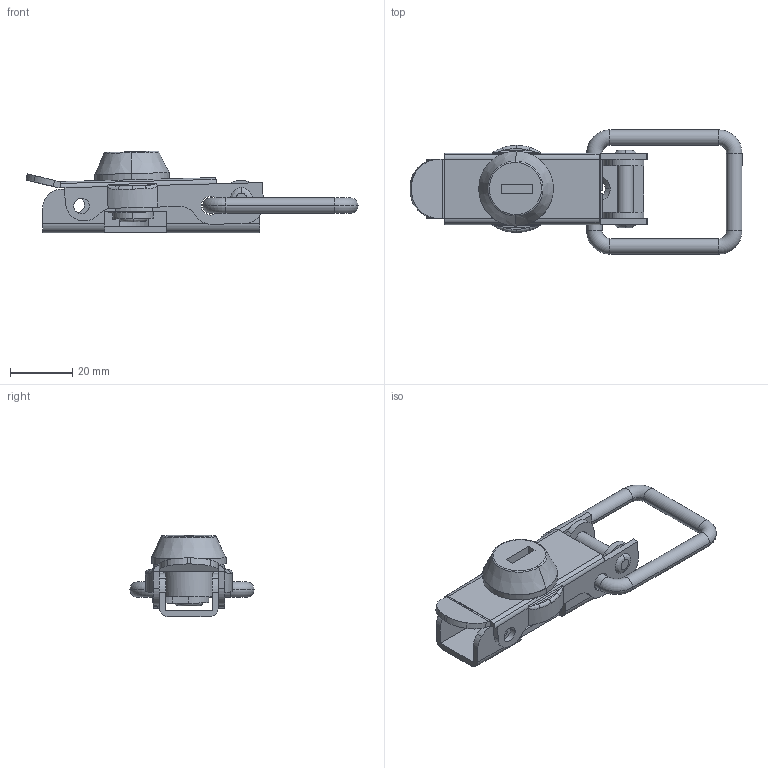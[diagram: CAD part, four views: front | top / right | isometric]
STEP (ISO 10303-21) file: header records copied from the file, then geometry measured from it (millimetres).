
FILE_DESCRIPTION((''),'2;1');
FILE_NAME('6370.stp','2013-11-29T12:21:57',(''),(''),'Mechanical Desktop 2006','Mechanical Desktop 2006',', , ');
FILE_SCHEMA(('CONFIG_CONTROL_DESIGN'));
Length unit declared in the file: millimetre
Products named in the file (6): 6370; GR.PL; HANDBE 123-7; ~TEIL1; TEIL2; TEIL1
Assembly tree (5 placements, depth 2):
  6370
    GR.PL
    HANDBE 123-7
    ~TEIL1
    TEIL2
    TEIL1
Bounding box: 106.89 x 40 x 26.31 mm (x, y, z)
Volume: 18348.3 mm3; surface area: 16266.5 mm2
Topology: 5 solids, 5 shells, 222 faces, 584 edges, 376 vertices
Faces by surface type: cylinder 106, plane 79, torus 16, bspline 13, cone 8
Entity records: 8134 total; most frequent: CARTESIAN_POINT 2274, DIRECTION 1261, ORIENTED_EDGE 1168, EDGE_CURVE 584, AXIS2_PLACEMENT_3D 487, VERTEX_POINT 375, VECTOR 287, LINE 287
